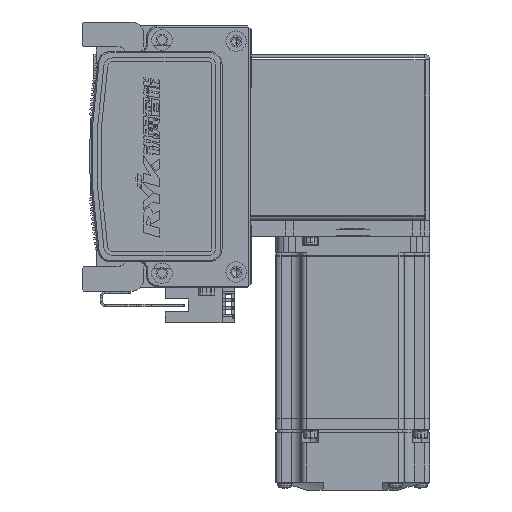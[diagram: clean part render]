
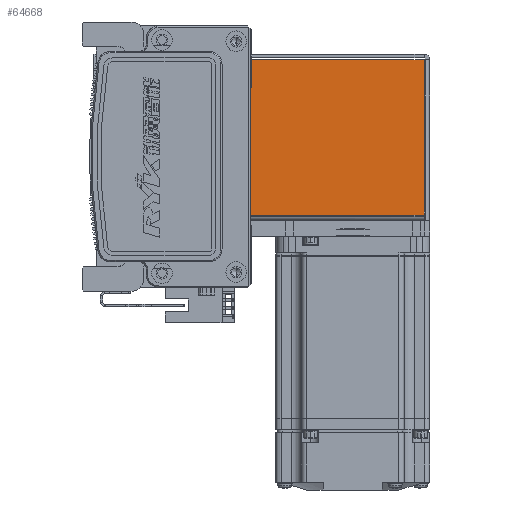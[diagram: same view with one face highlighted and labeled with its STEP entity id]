
A CAD part, left-side view. The second image highlights one B-rep face of the part: STEP entity #64668.
In plain terms, the highlighted planar face has unit normal (-1, 0, 0) as drawn and (0, 0, -1) by its records, which use the part's own axes.
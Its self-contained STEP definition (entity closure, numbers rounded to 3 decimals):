
#577 = CARTESIAN_POINT ( 'NONE',  ( -30.293, 0.737, -35. ) ) ;
#3523 = EDGE_CURVE ( 'NONE', #42557, #30603, #44672, .T. ) ;
#4342 = CARTESIAN_POINT ( 'NONE',  ( 30.263, 0.737, -35. ) ) ;
#10003 = CARTESIAN_POINT ( 'NONE',  ( -30.293, 72.5, -35. ) ) ;
#12229 = DIRECTION ( 'NONE',  ( 0., 1., 0. ) ) ;
#14315 = VECTOR ( 'NONE', #42624, 1000. ) ;
#20014 = VECTOR ( 'NONE', #32130, 1000. ) ;
#21973 = DIRECTION ( 'NONE',  ( 0., 0., 1. ) ) ;
#24854 = EDGE_CURVE ( 'NONE', #42557, #32462, #42241, .T. ) ;
#28002 = FACE_OUTER_BOUND ( 'NONE', #42346, .T. ) ;
#30603 = VERTEX_POINT ( 'NONE', #4342 ) ;
#32130 = DIRECTION ( 'NONE',  ( 0., -1., 0. ) ) ;
#32230 = CARTESIAN_POINT ( 'NONE',  ( 32.5, 0.737, -35. ) ) ;
#32462 = VERTEX_POINT ( 'NONE', #10003 ) ;
#36586 = VERTEX_POINT ( 'NONE', #59518 ) ;
#38506 = CARTESIAN_POINT ( 'NONE',  ( 0., 0., -35. ) ) ;
#42241 = LINE ( 'NONE', #66121, #46473 ) ;
#42346 = EDGE_LOOP ( 'NONE', ( #49297, #67167, #56806, #68988 ) ) ;
#42557 = VERTEX_POINT ( 'NONE', #577 ) ;
#42624 = DIRECTION ( 'NONE',  ( 1., 0., 0. ) ) ;
#44019 = DIRECTION ( 'NONE',  ( 0., -1., 0. ) ) ;
#44672 = LINE ( 'NONE', #32230, #14315 ) ;
#46473 = VECTOR ( 'NONE', #12229, 1000. ) ;
#49296 = EDGE_CURVE ( 'NONE', #32462, #36586, #56684, .T. ) ;
#49297 = ORIENTED_EDGE ( 'NONE', *, *, #69775, .T. ) ;
#53181 = VECTOR ( 'NONE', #68003, 1000. ) ;
#54167 = CARTESIAN_POINT ( 'NONE',  ( 30.263, 72.5, -35. ) ) ;
#55201 = PLANE ( 'NONE',  #66557 ) ;
#56684 = LINE ( 'NONE', #63138, #53181 ) ;
#56806 = ORIENTED_EDGE ( 'NONE', *, *, #24854, .T. ) ;
#59518 = CARTESIAN_POINT ( 'NONE',  ( 30.263, 72.5, -35. ) ) ;
#63138 = CARTESIAN_POINT ( 'NONE',  ( 0., 72.5, -35. ) ) ;
#64668 = ADVANCED_FACE ( 'NONE', ( #28002 ), #55201, .F. ) ;
#66121 = CARTESIAN_POINT ( 'NONE',  ( -30.293, 0., -35. ) ) ;
#66557 = AXIS2_PLACEMENT_3D ( 'NONE', #38506, #21973, #44019 ) ;
#67167 = ORIENTED_EDGE ( 'NONE', *, *, #3523, .F. ) ;
#68003 = DIRECTION ( 'NONE',  ( 1., 0., 0. ) ) ;
#68988 = ORIENTED_EDGE ( 'NONE', *, *, #49296, .T. ) ;
#69524 = LINE ( 'NONE', #54167, #20014 ) ;
#69775 = EDGE_CURVE ( 'NONE', #36586, #30603, #69524, .T. ) ;
